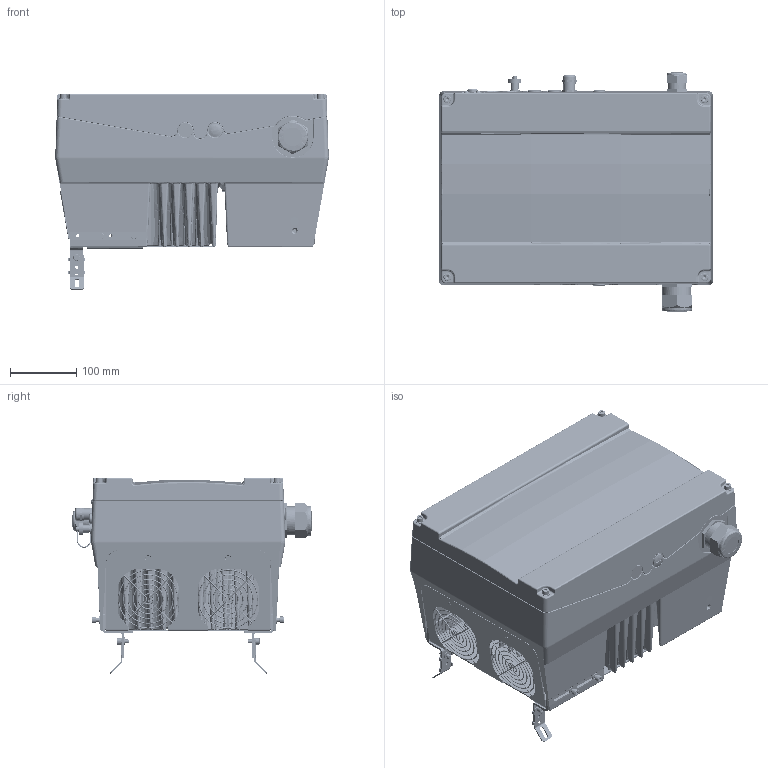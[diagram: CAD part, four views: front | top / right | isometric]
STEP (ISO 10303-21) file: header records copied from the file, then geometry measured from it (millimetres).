
FILE_DESCRIPTION(('CATIA V5 STEP 214'),'2;1');
FILE_NAME('C:\Temp\ddxv6\153252\INVEORMD_ALLCATPART.stp','2012-02-28T08:02:01+00:00',('Leopold Kostal'),('Kostal GmbH'),'CATIA Version 5 Release 19 SP 8 (IN-10)','CATIA V5 STEP AP214','none');
FILE_SCHEMA(('AUTOMOTIVE_DESIGN { 1 0 10303 214 1 1 1 1 }'));
Length unit declared in the file: millimetre
Products named in the file (1): INVEORMD_AllCATPart
Bounding box: 413.93 x 361.7 x 296.89 mm (x, y, z)
Volume: 6345004.4 mm3; surface area: 1856725.5 mm2
Topology: 98 solids, 105 shells, 8556 faces, 21791 edges, 13657 vertices
Faces by surface type: plane 3138, cylinder 1833, cone 1180, torus 859, extrusion 770, bspline 717, sphere 41, revolution 18
Entity records: 340984 total; most frequent: CARTESIAN_POINT 154231, ORIENTED_EDGE 43232, DIRECTION 25957, EDGE_CURVE 21622, VERTEX_POINT 13652, AXIS2_PLACEMENT_3D 10691, VECTOR 10187, LINE 9417
